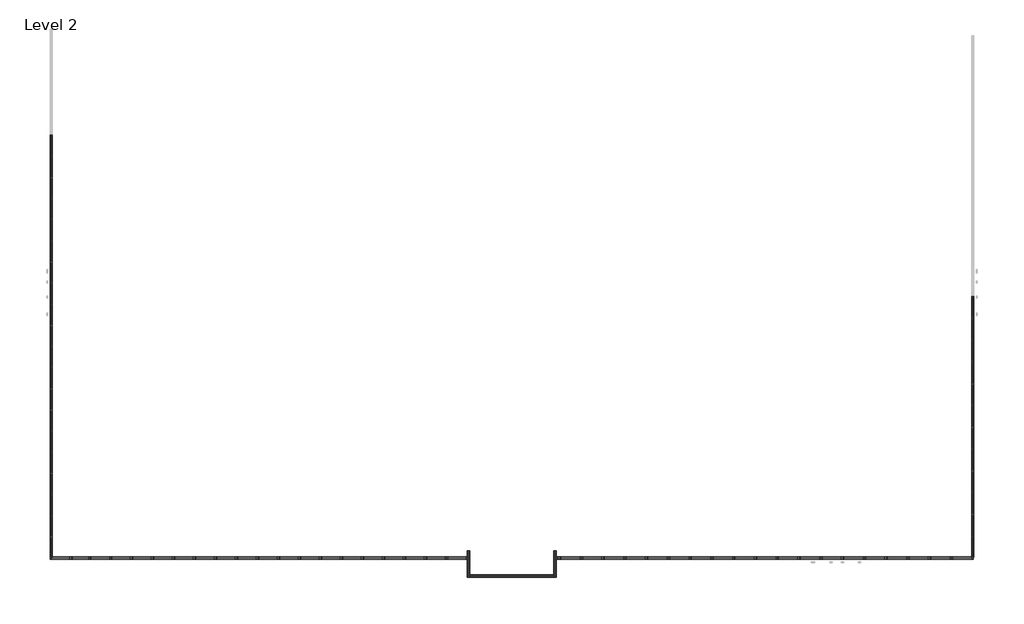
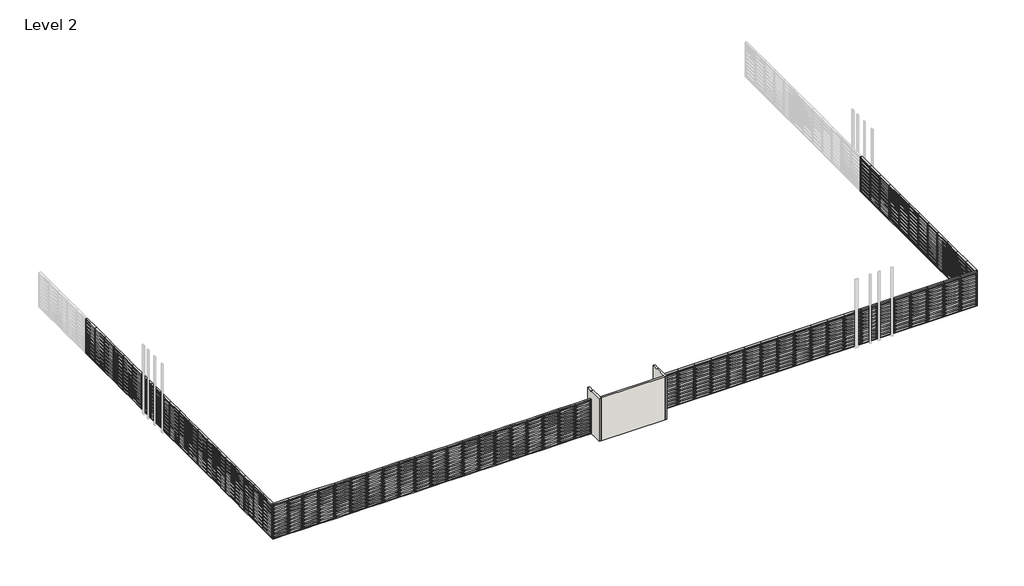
# One storey, part 1 of 2: 72 plates, 3 walls.
"""IFC4 building model written with IfcOpenShell, lengths in millimetres."""

from ifc_helpers import new_model, si_unit, frame, origin, place, context, project, spatial, polyline, outline, extrude, faceted_brep, transform, mapped, element, save
from components import curtain_wall_panel_louver_20805_curtain_wall_panel_louver_1ae15b3a, curtain_wall_panel_louver_20805_curtain_wall_panel_louver_34a23a9e, curtain_wall_panel_louver_20805_curtain_wall_panel_louver_166f2102, curtain_wall_panel_louver_20805_curtain_wall_panel_louver_68f3dc09, curtain_wall_panel_louver_20805_curtain_wall_panel_louver_29182894, curtain_wall_panel_louver_20805_curtain_wall_panel_louver_0f9f9e0f

model = new_model("IFC4")

# Units and contexts
model_context = context("Model", 3, world=origin())
ifc_project = project(units=[si_unit("LENGTHUNIT", "METRE", prefix="MILLI")], contexts=[model_context])

# Site, building, storey
site = spatial("IfcSite", under=ifc_project)
building = spatial("IfcBuilding", under=site)
storey = spatial("IfcBuildingStorey", under=building, Name="Level 2", Elevation=6800.0)

# Plates
placement = place(None, origin())
curtain_wall_panel_louver_20805_curtain_wall_panel_louver_shape = curtain_wall_panel_louver_20805_curtain_wall_panel_louver_1ae15b3a(model_context)
element("IfcPlate", 1, ObjectType="Curtain_wall_panel_-_Louver_20805 : Curtain_wall_panel_-_Louver_20805", at=placement, inside=storey, context=model_context, shape_type="MappedRepresentation", body=[
    mapped(curtain_wall_panel_louver_20805_curtain_wall_panel_louver_shape, transform((-13373.0205063, -36205.9199596, 5800.0), x_axis=(-1.0, 0.0, 0.0), y_axis=(0.0, -1.0, 0.0), z_axis=(0.0, 0.0, 1.0))),
])
element("IfcPlate", 2, ObjectType="Curtain_wall_panel_-_Louver_20805 : Curtain_wall_panel_-_Louver_20805", at=placement, inside=storey, context=model_context, shape_type="MappedRepresentation", body=[
    mapped(curtain_wall_panel_louver_20805_curtain_wall_panel_louver_shape, transform((-15203.0205065, -36205.9199596, 5800.0), x_axis=(-1.0, 0.0, 0.0), y_axis=(0.0, -1.0, 0.0), z_axis=(0.0, 0.0, 1.0))),
])
element("IfcPlate", 3, ObjectType="Curtain_wall_panel_-_Louver_20805 : Curtain_wall_panel_-_Louver_20805", at=placement, inside=storey, context=model_context, shape_type="MappedRepresentation", body=[
    mapped(curtain_wall_panel_louver_20805_curtain_wall_panel_louver_shape, transform((-17033.0205065, -36205.9199596, 5800.0), x_axis=(-1.0, 0.0, 0.0), y_axis=(0.0, -1.0, 0.0), z_axis=(0.0, 0.0, 1.0))),
])
element("IfcPlate", 4, ObjectType="Curtain_wall_panel_-_Louver_20805 : Curtain_wall_panel_-_Louver_20805", at=placement, inside=storey, context=model_context, shape_type="MappedRepresentation", body=[
    mapped(curtain_wall_panel_louver_20805_curtain_wall_panel_louver_shape, transform((-18863.0205065, -36205.9199596, 5800.0), x_axis=(-1.0, 0.0, 0.0), y_axis=(0.0, -1.0, 0.0), z_axis=(0.0, 0.0, 1.0))),
])
element("IfcPlate", 5, ObjectType="Curtain_wall_panel_-_Louver_20805 : Curtain_wall_panel_-_Louver_20805", at=placement, inside=storey, context=model_context, shape_type="MappedRepresentation", body=[
    mapped(curtain_wall_panel_louver_20805_curtain_wall_panel_louver_shape, transform((-20693.0205065, -36205.9199596, 5800.0), x_axis=(-1.0, 0.0, 0.0), y_axis=(0.0, -1.0, 0.0), z_axis=(0.0, 0.0, 1.0))),
])
element("IfcPlate", 6, ObjectType="Curtain_wall_panel_-_Louver_20805 : Curtain_wall_panel_-_Louver_20805", at=placement, inside=storey, context=model_context, shape_type="MappedRepresentation", body=[
    mapped(curtain_wall_panel_louver_20805_curtain_wall_panel_louver_shape, transform((-22523.0205065, -36205.9199596, 5800.0), x_axis=(-1.0, 0.0, 0.0), y_axis=(0.0, -1.0, 0.0), z_axis=(0.0, 0.0, 1.0))),
])
element("IfcPlate", 7, ObjectType="Curtain_wall_panel_-_Louver_20805 : Curtain_wall_panel_-_Louver_20805", at=placement, inside=storey, context=model_context, shape_type="MappedRepresentation", body=[
    mapped(curtain_wall_panel_louver_20805_curtain_wall_panel_louver_shape, transform((-24353.0205065, -36205.9199596, 5800.0), x_axis=(-1.0, 0.0, 0.0), y_axis=(0.0, -1.0, 0.0), z_axis=(0.0, 0.0, 1.0))),
])
element("IfcPlate", 8, ObjectType="Curtain_wall_panel_-_Louver_20805 : Curtain_wall_panel_-_Louver_20805", at=placement, inside=storey, context=model_context, shape_type="MappedRepresentation", body=[
    mapped(curtain_wall_panel_louver_20805_curtain_wall_panel_louver_shape, transform((-26183.0205065, -36205.9199596, 5800.0), x_axis=(-1.0, 0.0, 0.0), y_axis=(0.0, -1.0, 0.0), z_axis=(0.0, 0.0, 1.0))),
])
element("IfcPlate", 9, ObjectType="Curtain_wall_panel_-_Louver_20805 : Curtain_wall_panel_-_Louver_20805", at=placement, inside=storey, context=model_context, shape_type="MappedRepresentation", body=[
    mapped(curtain_wall_panel_louver_20805_curtain_wall_panel_louver_shape, transform((-28013.0205065, -36205.9199596, 5800.0), x_axis=(-1.0, 0.0, 0.0), y_axis=(0.0, -1.0, 0.0), z_axis=(0.0, 0.0, 1.0))),
])
element("IfcPlate", 10, ObjectType="Curtain_wall_panel_-_Louver_20805 : Curtain_wall_panel_-_Louver_20805", at=placement, inside=storey, context=model_context, shape_type="MappedRepresentation", body=[
    mapped(curtain_wall_panel_louver_20805_curtain_wall_panel_louver_shape, transform((-29843.0205065, -36205.9199596, 5800.0), x_axis=(-1.0, 0.0, 0.0), y_axis=(0.0, -1.0, 0.0), z_axis=(0.0, 0.0, 1.0))),
])
element("IfcPlate", 11, ObjectType="Curtain_wall_panel_-_Louver_20805 : Curtain_wall_panel_-_Louver_20805", at=placement, inside=storey, context=model_context, shape_type="MappedRepresentation", body=[
    mapped(curtain_wall_panel_louver_20805_curtain_wall_panel_louver_shape, transform((-31673.0205065, -36205.9199596, 5800.0), x_axis=(-1.0, 0.0, 0.0), y_axis=(0.0, -1.0, 0.0), z_axis=(0.0, 0.0, 1.0))),
])
element("IfcPlate", 12, ObjectType="Curtain_wall_panel_-_Louver_20805 : Curtain_wall_panel_-_Louver_20805", at=placement, inside=storey, context=model_context, shape_type="MappedRepresentation", body=[
    mapped(curtain_wall_panel_louver_20805_curtain_wall_panel_louver_shape, transform((-33503.0205065, -36205.9199596, 5800.0), x_axis=(-1.0, 0.0, 0.0), y_axis=(0.0, -1.0, 0.0), z_axis=(0.0, 0.0, 1.0))),
])
element("IfcPlate", 13, ObjectType="Curtain_wall_panel_-_Louver_20805 : Curtain_wall_panel_-_Louver_20805", at=placement, inside=storey, context=model_context, shape_type="MappedRepresentation", body=[
    mapped(curtain_wall_panel_louver_20805_curtain_wall_panel_louver_shape, transform((-35333.0205065, -36205.9199596, 5800.0), x_axis=(-1.0, 0.0, 0.0), y_axis=(0.0, -1.0, 0.0), z_axis=(0.0, 0.0, 1.0))),
])
element("IfcPlate", 14, ObjectType="Curtain_wall_panel_-_Louver_20805 : Curtain_wall_panel_-_Louver_20805", at=placement, inside=storey, context=model_context, shape_type="MappedRepresentation", body=[
    mapped(curtain_wall_panel_louver_20805_curtain_wall_panel_louver_shape, transform((-37163.0205065, -36205.9199596, 5800.0), x_axis=(-1.0, 0.0, 0.0), y_axis=(0.0, -1.0, 0.0), z_axis=(0.0, 0.0, 1.0))),
])
element("IfcPlate", 15, ObjectType="Curtain_wall_panel_-_Louver_20805 : Curtain_wall_panel_-_Louver_20805", at=placement, inside=storey, context=model_context, shape_type="MappedRepresentation", body=[
    mapped(curtain_wall_panel_louver_20805_curtain_wall_panel_louver_shape, transform((-38993.0205065, -36205.9199596, 5800.0), x_axis=(-1.0, 0.0, 0.0), y_axis=(0.0, -1.0, 0.0), z_axis=(0.0, 0.0, 1.0))),
])
element("IfcPlate", 16, ObjectType="Curtain_wall_panel_-_Louver_20805 : Curtain_wall_panel_-_Louver_20805", at=placement, inside=storey, context=model_context, shape_type="MappedRepresentation", body=[
    mapped(curtain_wall_panel_louver_20805_curtain_wall_panel_louver_shape, transform((-40823.0205065, -36205.9199596, 5800.0), x_axis=(-1.0, 0.0, 0.0), y_axis=(0.0, -1.0, 0.0), z_axis=(0.0, 0.0, 1.0))),
])
element("IfcPlate", 17, ObjectType="Curtain_wall_panel_-_Louver_20805 : Curtain_wall_panel_-_Louver_20805", at=placement, inside=storey, context=model_context, shape_type="MappedRepresentation", body=[
    mapped(curtain_wall_panel_louver_20805_curtain_wall_panel_louver_shape, transform((-42653.0205065, -36205.9199596, 5800.0), x_axis=(-1.0, 0.0, 0.0), y_axis=(0.0, -1.0, 0.0), z_axis=(0.0, 0.0, 1.0))),
])
element("IfcPlate", 18, ObjectType="Curtain_wall_panel_-_Louver_20805 : Curtain_wall_panel_-_Louver_20805", at=placement, inside=storey, context=model_context, shape_type="MappedRepresentation", body=[
    mapped(curtain_wall_panel_louver_20805_curtain_wall_panel_louver_shape, transform((-44483.0205065, -36205.9199596, 5800.0), x_axis=(-1.0, 0.0, 0.0), y_axis=(0.0, -1.0, 0.0), z_axis=(0.0, 0.0, 1.0))),
])
element("IfcPlate", 19, ObjectType="Curtain_wall_panel_-_Louver_20805 : Curtain_wall_panel_-_Louver_20805", at=placement, inside=storey, context=model_context, shape_type="MappedRepresentation", body=[
    mapped(curtain_wall_panel_louver_20805_curtain_wall_panel_louver_shape, transform((-46313.0205065, -36205.9199596, 5800.0), x_axis=(-1.0, 0.0, 0.0), y_axis=(0.0, -1.0, 0.0), z_axis=(0.0, 0.0, 1.0))),
])
curtain_wall_panel_louver_20805_curtain_wall_panel_louver_2_shape = curtain_wall_panel_louver_20805_curtain_wall_panel_louver_34a23a9e(model_context)
element("IfcPlate", 20, ObjectType="Curtain_wall_panel_-_Louver_20805 : Curtain_wall_panel_-_Louver_20805", at=placement, inside=storey, context=model_context, shape_type="MappedRepresentation", body=[
    mapped(curtain_wall_panel_louver_20805_curtain_wall_panel_louver_2_shape, transform((-12400.7705062, -35133.6699595, 5800.0), x_axis=(0.0, 1.0, 0.0), y_axis=(-1.0, 0.0, 0.0), z_axis=(0.0, 0.0, 1.0))),
])
element("IfcPlate", 21, ObjectType="Curtain_wall_panel_-_Louver_20805 : Curtain_wall_panel_-_Louver_20805", at=placement, inside=storey, context=model_context, shape_type="MappedRepresentation", body=[
    mapped(curtain_wall_panel_louver_20805_curtain_wall_panel_louver_2_shape, transform((-12400.7705062, -33303.6699593, 5800.0), x_axis=(0.0, 1.0, 0.0), y_axis=(-1.0, 0.0, 0.0), z_axis=(0.0, 0.0, 1.0))),
])
element("IfcPlate", 22, ObjectType="Curtain_wall_panel_-_Louver_20805 : Curtain_wall_panel_-_Louver_20805", at=placement, inside=storey, context=model_context, shape_type="MappedRepresentation", body=[
    mapped(curtain_wall_panel_louver_20805_curtain_wall_panel_louver_2_shape, transform((-12400.7705062, -31473.6699593, 5800.0), x_axis=(0.0, 1.0, 0.0), y_axis=(-1.0, 0.0, 0.0), z_axis=(0.0, 0.0, 1.0))),
])
element("IfcPlate", 23, ObjectType="Curtain_wall_panel_-_Louver_20805 : Curtain_wall_panel_-_Louver_20805", at=placement, inside=storey, context=model_context, shape_type="MappedRepresentation", body=[
    mapped(curtain_wall_panel_louver_20805_curtain_wall_panel_louver_2_shape, transform((-12400.7705062, -29643.6699593, 5800.0), x_axis=(0.0, 1.0, 0.0), y_axis=(-1.0, 0.0, 0.0), z_axis=(0.0, 0.0, 1.0))),
])
element("IfcPlate", 24, ObjectType="Curtain_wall_panel_-_Louver_20805 : Curtain_wall_panel_-_Louver_20805", at=placement, inside=storey, context=model_context, shape_type="MappedRepresentation", body=[
    mapped(curtain_wall_panel_louver_20805_curtain_wall_panel_louver_2_shape, transform((-12400.7705062, -27813.6699593, 5800.0), x_axis=(0.0, 1.0, 0.0), y_axis=(-1.0, 0.0, 0.0), z_axis=(0.0, 0.0, 1.0))),
])
element("IfcPlate", 25, ObjectType="Curtain_wall_panel_-_Louver_20805 : Curtain_wall_panel_-_Louver_20805", at=placement, inside=storey, context=model_context, shape_type="MappedRepresentation", body=[
    mapped(curtain_wall_panel_louver_20805_curtain_wall_panel_louver_2_shape, transform((-12400.7705062, -25983.6699593, 5800.0), x_axis=(0.0, 1.0, 0.0), y_axis=(-1.0, 0.0, 0.0), z_axis=(0.0, 0.0, 1.0))),
])
element("IfcPlate", 26, ObjectType="Curtain_wall_panel_-_Louver_20805 : Curtain_wall_panel_-_Louver_20805", at=placement, inside=storey, context=model_context, shape_type="MappedRepresentation", body=[
    mapped(curtain_wall_panel_louver_20805_curtain_wall_panel_louver_2_shape, transform((-12400.7705062, -24153.6699593, 5800.0), x_axis=(0.0, 1.0, 0.0), y_axis=(-1.0, 0.0, 0.0), z_axis=(0.0, 0.0, 1.0))),
])
element("IfcPlate", 27, ObjectType="Curtain_wall_panel_-_Louver_20805 : Curtain_wall_panel_-_Louver_20805", at=placement, inside=storey, context=model_context, shape_type="MappedRepresentation", body=[
    mapped(curtain_wall_panel_louver_20805_curtain_wall_panel_louver_2_shape, transform((-12400.7705062, -22323.6699593, 5800.0), x_axis=(0.0, 1.0, 0.0), y_axis=(-1.0, 0.0, 0.0), z_axis=(0.0, 0.0, 1.0))),
])
element("IfcPlate", 28, ObjectType="Curtain_wall_panel_-_Louver_20805 : Curtain_wall_panel_-_Louver_20805", at=placement, inside=storey, context=model_context, shape_type="MappedRepresentation", body=[
    mapped(curtain_wall_panel_louver_20805_curtain_wall_panel_louver_2_shape, transform((-12400.7705062, -20493.6699593, 5800.0), x_axis=(0.0, 1.0, 0.0), y_axis=(-1.0, 0.0, 0.0), z_axis=(0.0, 0.0, 1.0))),
])
element("IfcPlate", 29, ObjectType="Curtain_wall_panel_-_Louver_20805 : Curtain_wall_panel_-_Louver_20805", at=placement, inside=storey, context=model_context, shape_type="MappedRepresentation", body=[
    mapped(curtain_wall_panel_louver_20805_curtain_wall_panel_louver_2_shape, transform((-12400.7705062, -18663.6699593, 5800.0), x_axis=(0.0, 1.0, 0.0), y_axis=(-1.0, 0.0, 0.0), z_axis=(0.0, 0.0, 1.0))),
])
element("IfcPlate", 30, ObjectType="Curtain_wall_panel_-_Louver_20805 : Curtain_wall_panel_-_Louver_20805", at=placement, inside=storey, context=model_context, shape_type="MappedRepresentation", body=[
    mapped(curtain_wall_panel_louver_20805_curtain_wall_panel_louver_2_shape, transform((-12400.7705062, -16833.6699593, 5800.0), x_axis=(0.0, 1.0, 0.0), y_axis=(-1.0, 0.0, 0.0), z_axis=(0.0, 0.0, 1.0))),
])
element("IfcPlate", 31, ObjectType="Curtain_wall_panel_-_Louver_20805 : Curtain_wall_panel_-_Louver_20805", at=placement, inside=storey, context=model_context, shape_type="MappedRepresentation", body=[
    mapped(curtain_wall_panel_louver_20805_curtain_wall_panel_louver_2_shape, transform((-12400.7705062, -15003.6699593, 5800.0), x_axis=(0.0, 1.0, 0.0), y_axis=(-1.0, 0.0, 0.0), z_axis=(0.0, 0.0, 1.0))),
])
curtain_wall_panel_louver_20805_curtain_wall_panel_louver_3_shape = curtain_wall_panel_louver_20805_curtain_wall_panel_louver_166f2102(model_context)
element("IfcPlate", 32, ObjectType="Curtain_wall_panel_-_Louver_20805 : Curtain_wall_panel_-_Louver_20805", at=placement, inside=storey, context=model_context, shape_type="MappedRepresentation", body=[
    mapped(curtain_wall_panel_louver_20805_curtain_wall_panel_louver_3_shape, transform((-55855.2253047, -36205.9199596, 5800.0), x_axis=(-1.0, 0.0, 0.0), y_axis=(0.0, -1.0, 0.0), z_axis=(0.0, 0.0, 1.0))),
])
element("IfcPlate", 33, ObjectType="Curtain_wall_panel_-_Louver_20805 : Curtain_wall_panel_-_Louver_20805", at=placement, inside=storey, context=model_context, shape_type="MappedRepresentation", body=[
    mapped(curtain_wall_panel_louver_20805_curtain_wall_panel_louver_3_shape, transform((-57619.5645631, -36205.9199596, 5800.0), x_axis=(-1.0, 0.0, 0.0), y_axis=(0.0, -1.0, 0.0), z_axis=(0.0, 0.0, 1.0))),
])
element("IfcPlate", 34, ObjectType="Curtain_wall_panel_-_Louver_20805 : Curtain_wall_panel_-_Louver_20805", at=placement, inside=storey, context=model_context, shape_type="MappedRepresentation", body=[
    mapped(curtain_wall_panel_louver_20805_curtain_wall_panel_louver_3_shape, transform((-59383.9038216, -36205.9199596, 5800.0), x_axis=(-1.0, 0.0, 0.0), y_axis=(0.0, -1.0, 0.0), z_axis=(0.0, 0.0, 1.0))),
])
element("IfcPlate", 35, ObjectType="Curtain_wall_panel_-_Louver_20805 : Curtain_wall_panel_-_Louver_20805", at=placement, inside=storey, context=model_context, shape_type="MappedRepresentation", body=[
    mapped(curtain_wall_panel_louver_20805_curtain_wall_panel_louver_3_shape, transform((-61148.2430801, -36205.9199596, 5800.0), x_axis=(-1.0, 0.0, 0.0), y_axis=(0.0, -1.0, 0.0), z_axis=(0.0, 0.0, 1.0))),
])
element("IfcPlate", 36, ObjectType="Curtain_wall_panel_-_Louver_20805 : Curtain_wall_panel_-_Louver_20805", at=placement, inside=storey, context=model_context, shape_type="MappedRepresentation", body=[
    mapped(curtain_wall_panel_louver_20805_curtain_wall_panel_louver_3_shape, transform((-62912.5823385, -36205.9199596, 5800.0), x_axis=(-1.0, 0.0, 0.0), y_axis=(0.0, -1.0, 0.0), z_axis=(0.0, 0.0, 1.0))),
])
element("IfcPlate", 37, ObjectType="Curtain_wall_panel_-_Louver_20805 : Curtain_wall_panel_-_Louver_20805", at=placement, inside=storey, context=model_context, shape_type="MappedRepresentation", body=[
    mapped(curtain_wall_panel_louver_20805_curtain_wall_panel_louver_3_shape, transform((-64676.921597, -36205.9199596, 5800.0), x_axis=(-1.0, 0.0, 0.0), y_axis=(0.0, -1.0, 0.0), z_axis=(0.0, 0.0, 1.0))),
])
element("IfcPlate", 38, ObjectType="Curtain_wall_panel_-_Louver_20805 : Curtain_wall_panel_-_Louver_20805", at=placement, inside=storey, context=model_context, shape_type="MappedRepresentation", body=[
    mapped(curtain_wall_panel_louver_20805_curtain_wall_panel_louver_3_shape, transform((-66441.2608555, -36205.9199596, 5800.0), x_axis=(-1.0, 0.0, 0.0), y_axis=(0.0, -1.0, 0.0), z_axis=(0.0, 0.0, 1.0))),
])
element("IfcPlate", 39, ObjectType="Curtain_wall_panel_-_Louver_20805 : Curtain_wall_panel_-_Louver_20805", at=placement, inside=storey, context=model_context, shape_type="MappedRepresentation", body=[
    mapped(curtain_wall_panel_louver_20805_curtain_wall_panel_louver_3_shape, transform((-68205.6001139, -36205.9199596, 5800.0), x_axis=(-1.0, 0.0, 0.0), y_axis=(0.0, -1.0, 0.0), z_axis=(0.0, 0.0, 1.0))),
])
element("IfcPlate", 40, ObjectType="Curtain_wall_panel_-_Louver_20805 : Curtain_wall_panel_-_Louver_20805", at=placement, inside=storey, context=model_context, shape_type="MappedRepresentation", body=[
    mapped(curtain_wall_panel_louver_20805_curtain_wall_panel_louver_3_shape, transform((-69969.9393724, -36205.9199596, 5800.0), x_axis=(-1.0, 0.0, 0.0), y_axis=(0.0, -1.0, 0.0), z_axis=(0.0, 0.0, 1.0))),
])
element("IfcPlate", 41, ObjectType="Curtain_wall_panel_-_Louver_20805 : Curtain_wall_panel_-_Louver_20805", at=placement, inside=storey, context=model_context, shape_type="MappedRepresentation", body=[
    mapped(curtain_wall_panel_louver_20805_curtain_wall_panel_louver_3_shape, transform((-71734.2786309, -36205.9199596, 5800.0), x_axis=(-1.0, 0.0, 0.0), y_axis=(0.0, -1.0, 0.0), z_axis=(0.0, 0.0, 1.0))),
])
element("IfcPlate", 42, ObjectType="Curtain_wall_panel_-_Louver_20805 : Curtain_wall_panel_-_Louver_20805", at=placement, inside=storey, context=model_context, shape_type="MappedRepresentation", body=[
    mapped(curtain_wall_panel_louver_20805_curtain_wall_panel_louver_3_shape, transform((-73498.6178893, -36205.9199596, 5800.0), x_axis=(-1.0, 0.0, 0.0), y_axis=(0.0, -1.0, 0.0), z_axis=(0.0, 0.0, 1.0))),
])
element("IfcPlate", 43, ObjectType="Curtain_wall_panel_-_Louver_20805 : Curtain_wall_panel_-_Louver_20805", at=placement, inside=storey, context=model_context, shape_type="MappedRepresentation", body=[
    mapped(curtain_wall_panel_louver_20805_curtain_wall_panel_louver_3_shape, transform((-75262.9571478, -36205.9199596, 5800.0), x_axis=(-1.0, 0.0, 0.0), y_axis=(0.0, -1.0, 0.0), z_axis=(0.0, 0.0, 1.0))),
])
element("IfcPlate", 44, ObjectType="Curtain_wall_panel_-_Louver_20805 : Curtain_wall_panel_-_Louver_20805", at=placement, inside=storey, context=model_context, shape_type="MappedRepresentation", body=[
    mapped(curtain_wall_panel_louver_20805_curtain_wall_panel_louver_3_shape, transform((-77027.2964063, -36205.9199596, 5800.0), x_axis=(-1.0, 0.0, 0.0), y_axis=(0.0, -1.0, 0.0), z_axis=(0.0, 0.0, 1.0))),
])
element("IfcPlate", 45, ObjectType="Curtain_wall_panel_-_Louver_20805 : Curtain_wall_panel_-_Louver_20805", at=placement, inside=storey, context=model_context, shape_type="MappedRepresentation", body=[
    mapped(curtain_wall_panel_louver_20805_curtain_wall_panel_louver_3_shape, transform((-78791.6356647, -36205.9199596, 5800.0), x_axis=(-1.0, 0.0, 0.0), y_axis=(0.0, -1.0, 0.0), z_axis=(0.0, 0.0, 1.0))),
])
element("IfcPlate", 46, ObjectType="Curtain_wall_panel_-_Louver_20805 : Curtain_wall_panel_-_Louver_20805", at=placement, inside=storey, context=model_context, shape_type="MappedRepresentation", body=[
    mapped(curtain_wall_panel_louver_20805_curtain_wall_panel_louver_3_shape, transform((-80555.9749232, -36205.9199596, 5800.0), x_axis=(-1.0, 0.0, 0.0), y_axis=(0.0, -1.0, 0.0), z_axis=(0.0, 0.0, 1.0))),
])
element("IfcPlate", 47, ObjectType="Curtain_wall_panel_-_Louver_20805 : Curtain_wall_panel_-_Louver_20805", at=placement, inside=storey, context=model_context, shape_type="MappedRepresentation", body=[
    mapped(curtain_wall_panel_louver_20805_curtain_wall_panel_louver_3_shape, transform((-82320.3141816, -36205.9199596, 5800.0), x_axis=(-1.0, 0.0, 0.0), y_axis=(0.0, -1.0, 0.0), z_axis=(0.0, 0.0, 1.0))),
])
element("IfcPlate", 48, ObjectType="Curtain_wall_panel_-_Louver_20805 : Curtain_wall_panel_-_Louver_20805", at=placement, inside=storey, context=model_context, shape_type="MappedRepresentation", body=[
    mapped(curtain_wall_panel_louver_20805_curtain_wall_panel_louver_3_shape, transform((-84084.6534401, -36205.9199596, 5800.0), x_axis=(-1.0, 0.0, 0.0), y_axis=(0.0, -1.0, 0.0), z_axis=(0.0, 0.0, 1.0))),
])
element("IfcPlate", 49, ObjectType="Curtain_wall_panel_-_Louver_20805 : Curtain_wall_panel_-_Louver_20805", at=placement, inside=storey, context=model_context, shape_type="MappedRepresentation", body=[
    mapped(curtain_wall_panel_louver_20805_curtain_wall_panel_louver_3_shape, transform((-85848.9926986, -36205.9199596, 5800.0), x_axis=(-1.0, 0.0, 0.0), y_axis=(0.0, -1.0, 0.0), z_axis=(0.0, 0.0, 1.0))),
])
element("IfcPlate", 50, ObjectType="Curtain_wall_panel_-_Louver_20805 : Curtain_wall_panel_-_Louver_20805", at=placement, inside=storey, context=model_context, shape_type="MappedRepresentation", body=[
    mapped(curtain_wall_panel_louver_20805_curtain_wall_panel_louver_3_shape, transform((-89177.6712155, -36205.9199596, 5800.0), x_axis=(-1.0, 0.0, 0.0), y_axis=(0.0, -1.0, 0.0), z_axis=(0.0, 0.0, 1.0))),
])
curtain_wall_panel_louver_20805_curtain_wall_panel_louver_4_shape = curtain_wall_panel_louver_20805_curtain_wall_panel_louver_68f3dc09(model_context)
element("IfcPlate", 51, ObjectType="Curtain_wall_panel_-_Louver_20805 : Curtain_wall_panel_-_Louver_20805", at=placement, inside=storey, context=model_context, shape_type="MappedRepresentation", body=[
    mapped(curtain_wall_panel_louver_20805_curtain_wall_panel_louver_4_shape, transform((-90059.8408447, -35159.8149596, 5800.0), x_axis=(0.0, 1.0, 0.0), y_axis=(-1.0, 0.0, 0.0), z_axis=(0.0, 0.0, 1.0))),
])
element("IfcPlate", 52, ObjectType="Curtain_wall_panel_-_Louver_20805 : Curtain_wall_panel_-_Louver_20805", at=placement, inside=storey, context=model_context, shape_type="MappedRepresentation", body=[
    mapped(curtain_wall_panel_louver_20805_curtain_wall_panel_louver_4_shape, transform((-90059.8408447, -33382.1049596, 5800.0), x_axis=(0.0, 1.0, 0.0), y_axis=(-1.0, 0.0, 0.0), z_axis=(0.0, 0.0, 1.0))),
])
element("IfcPlate", 53, ObjectType="Curtain_wall_panel_-_Louver_20805 : Curtain_wall_panel_-_Louver_20805", at=placement, inside=storey, context=model_context, shape_type="MappedRepresentation", body=[
    mapped(curtain_wall_panel_louver_20805_curtain_wall_panel_louver_4_shape, transform((-90059.8408447, -31604.3949596, 5800.0), x_axis=(0.0, 1.0, 0.0), y_axis=(-1.0, 0.0, 0.0), z_axis=(0.0, 0.0, 1.0))),
])
element("IfcPlate", 54, ObjectType="Curtain_wall_panel_-_Louver_20805 : Curtain_wall_panel_-_Louver_20805", at=placement, inside=storey, context=model_context, shape_type="MappedRepresentation", body=[
    mapped(curtain_wall_panel_louver_20805_curtain_wall_panel_louver_4_shape, transform((-90059.8408447, -29826.6849596, 5800.0), x_axis=(0.0, 1.0, 0.0), y_axis=(-1.0, 0.0, 0.0), z_axis=(0.0, 0.0, 1.0))),
])
element("IfcPlate", 55, ObjectType="Curtain_wall_panel_-_Louver_20805 : Curtain_wall_panel_-_Louver_20805", at=placement, inside=storey, context=model_context, shape_type="MappedRepresentation", body=[
    mapped(curtain_wall_panel_louver_20805_curtain_wall_panel_louver_4_shape, transform((-90059.8408447, -28048.9749596, 5800.0), x_axis=(0.0, 1.0, 0.0), y_axis=(-1.0, 0.0, 0.0), z_axis=(0.0, 0.0, 1.0))),
])
element("IfcPlate", 56, ObjectType="Curtain_wall_panel_-_Louver_20805 : Curtain_wall_panel_-_Louver_20805", at=placement, inside=storey, context=model_context, shape_type="MappedRepresentation", body=[
    mapped(curtain_wall_panel_louver_20805_curtain_wall_panel_louver_4_shape, transform((-90059.8408447, -26271.2649596, 5800.0), x_axis=(0.0, 1.0, 0.0), y_axis=(-1.0, 0.0, 0.0), z_axis=(0.0, 0.0, 1.0))),
])
element("IfcPlate", 57, ObjectType="Curtain_wall_panel_-_Louver_20805 : Curtain_wall_panel_-_Louver_20805", at=placement, inside=storey, context=model_context, shape_type="MappedRepresentation", body=[
    mapped(curtain_wall_panel_louver_20805_curtain_wall_panel_louver_4_shape, transform((-90059.8408447, -24493.5549596, 5800.0), x_axis=(0.0, 1.0, 0.0), y_axis=(-1.0, 0.0, 0.0), z_axis=(0.0, 0.0, 1.0))),
])
element("IfcPlate", 58, ObjectType="Curtain_wall_panel_-_Louver_20805 : Curtain_wall_panel_-_Louver_20805", at=placement, inside=storey, context=model_context, shape_type="MappedRepresentation", body=[
    mapped(curtain_wall_panel_louver_20805_curtain_wall_panel_louver_4_shape, transform((-90059.8408447, -22715.8449596, 5800.0), x_axis=(0.0, 1.0, 0.0), y_axis=(-1.0, 0.0, 0.0), z_axis=(0.0, 0.0, 1.0))),
])
element("IfcPlate", 59, ObjectType="Curtain_wall_panel_-_Louver_20805 : Curtain_wall_panel_-_Louver_20805", at=placement, inside=storey, context=model_context, shape_type="MappedRepresentation", body=[
    mapped(curtain_wall_panel_louver_20805_curtain_wall_panel_louver_4_shape, transform((-90059.8408447, -20938.1349596, 5800.0), x_axis=(0.0, 1.0, 0.0), y_axis=(-1.0, 0.0, 0.0), z_axis=(0.0, 0.0, 1.0))),
])
element("IfcPlate", 60, ObjectType="Curtain_wall_panel_-_Louver_20805 : Curtain_wall_panel_-_Louver_20805", at=placement, inside=storey, context=model_context, shape_type="MappedRepresentation", body=[
    mapped(curtain_wall_panel_louver_20805_curtain_wall_panel_louver_4_shape, transform((-90059.8408447, -19160.4249596, 5800.0), x_axis=(0.0, 1.0, 0.0), y_axis=(-1.0, 0.0, 0.0), z_axis=(0.0, 0.0, 1.0))),
])
element("IfcPlate", 61, ObjectType="Curtain_wall_panel_-_Louver_20805 : Curtain_wall_panel_-_Louver_20805", at=placement, inside=storey, context=model_context, shape_type="MappedRepresentation", body=[
    mapped(curtain_wall_panel_louver_20805_curtain_wall_panel_louver_4_shape, transform((-90059.8408447, -17382.7149596, 5800.0), x_axis=(0.0, 1.0, 0.0), y_axis=(-1.0, 0.0, 0.0), z_axis=(0.0, 0.0, 1.0))),
])
element("IfcPlate", 62, ObjectType="Curtain_wall_panel_-_Louver_20805 : Curtain_wall_panel_-_Louver_20805", at=placement, inside=storey, context=model_context, shape_type="MappedRepresentation", body=[
    mapped(curtain_wall_panel_louver_20805_curtain_wall_panel_louver_4_shape, transform((-90059.8408447, -15605.0049596, 5800.0), x_axis=(0.0, 1.0, 0.0), y_axis=(-1.0, 0.0, 0.0), z_axis=(0.0, 0.0, 1.0))),
])
element("IfcPlate", 63, ObjectType="Curtain_wall_panel_-_Louver_20805 : Curtain_wall_panel_-_Louver_20805", at=placement, inside=storey, context=model_context, shape_type="MappedRepresentation", body=[
    mapped(curtain_wall_panel_louver_20805_curtain_wall_panel_louver_4_shape, transform((-90059.8408447, -13827.2949596, 5800.0), x_axis=(0.0, 1.0, 0.0), y_axis=(-1.0, 0.0, 0.0), z_axis=(0.0, 0.0, 1.0))),
])
element("IfcPlate", 64, ObjectType="Curtain_wall_panel_-_Louver_20805 : Curtain_wall_panel_-_Louver_20805", at=placement, inside=storey, context=model_context, shape_type="MappedRepresentation", body=[
    mapped(curtain_wall_panel_louver_20805_curtain_wall_panel_louver_4_shape, transform((-90059.8408447, -12049.5849596, 5800.0), x_axis=(0.0, 1.0, 0.0), y_axis=(-1.0, 0.0, 0.0), z_axis=(0.0, 0.0, 1.0))),
])
element("IfcPlate", 65, ObjectType="Curtain_wall_panel_-_Louver_20805 : Curtain_wall_panel_-_Louver_20805", at=placement, inside=storey, context=model_context, shape_type="MappedRepresentation", body=[
    mapped(curtain_wall_panel_louver_20805_curtain_wall_panel_louver_4_shape, transform((-90059.8408447, -10271.8749596, 5800.0), x_axis=(0.0, 1.0, 0.0), y_axis=(-1.0, 0.0, 0.0), z_axis=(0.0, 0.0, 1.0))),
])
element("IfcPlate", 66, ObjectType="Curtain_wall_panel_-_Louver_20805 : Curtain_wall_panel_-_Louver_20805", at=placement, inside=storey, context=model_context, shape_type="MappedRepresentation", body=[
    mapped(curtain_wall_panel_louver_20805_curtain_wall_panel_louver_4_shape, transform((-90059.8408447, -8494.1649596, 5800.0), x_axis=(0.0, 1.0, 0.0), y_axis=(-1.0, 0.0, 0.0), z_axis=(0.0, 0.0, 1.0))),
])
element("IfcPlate", 67, ObjectType="Curtain_wall_panel_-_Louver_20805 : Curtain_wall_panel_-_Louver_20805", at=placement, inside=storey, context=model_context, shape_type="MappedRepresentation", body=[
    mapped(curtain_wall_panel_louver_20805_curtain_wall_panel_louver_4_shape, transform((-90059.8408447, -6716.4549596, 5800.0), x_axis=(0.0, 1.0, 0.0), y_axis=(-1.0, 0.0, 0.0), z_axis=(0.0, 0.0, 1.0))),
])
element("IfcPlate", 68, ObjectType="Curtain_wall_panel_-_Louver_20805 : Curtain_wall_panel_-_Louver_20805", at=placement, inside=storey, context=model_context, shape_type="MappedRepresentation", body=[
    mapped(curtain_wall_panel_louver_20805_curtain_wall_panel_louver_4_shape, transform((-90059.8408447, -4938.7449596, 5800.0), x_axis=(0.0, 1.0, 0.0), y_axis=(-1.0, 0.0, 0.0), z_axis=(0.0, 0.0, 1.0))),
])
element("IfcPlate", 69, ObjectType="Curtain_wall_panel_-_Louver_20805 : Curtain_wall_panel_-_Louver_20805", at=placement, inside=storey, context=model_context, shape_type="MappedRepresentation", body=[
    mapped(curtain_wall_panel_louver_20805_curtain_wall_panel_louver_4_shape, transform((-90059.8408447, -3161.0349596, 5800.0), x_axis=(0.0, 1.0, 0.0), y_axis=(-1.0, 0.0, 0.0), z_axis=(0.0, 0.0, 1.0))),
])
element("IfcPlate", 70, ObjectType="Curtain_wall_panel_-_Louver_20805 : Curtain_wall_panel_-_Louver_20805", at=placement, inside=storey, context=model_context, shape_type="MappedRepresentation", body=[
    mapped(curtain_wall_panel_louver_20805_curtain_wall_panel_louver_4_shape, transform((-90059.8408447, -1383.3249596, 5800.0), x_axis=(0.0, 1.0, 0.0), y_axis=(-1.0, 0.0, 0.0), z_axis=(0.0, 0.0, 1.0))),
])
curtain_wall_panel_louver_20805_curtain_wall_panel_louver_5_shape = curtain_wall_panel_louver_20805_curtain_wall_panel_louver_29182894(model_context)
element("IfcPlate", 71, ObjectType="Curtain_wall_panel_-_Louver_20805 : Curtain_wall_panel_-_Louver_20805", at=placement, inside=storey, context=model_context, shape_type="MappedRepresentation", body=[
    mapped(curtain_wall_panel_louver_20805_curtain_wall_panel_louver_5_shape, transform((-87513.331957, -36205.9199596, 5800.0), x_axis=(-1.0, 0.0, 0.0), y_axis=(0.0, -1.0, 0.0), z_axis=(0.0, 0.0, 1.0))),
])
curtain_wall_panel_louver_20805_curtain_wall_panel_louver_6_shape = curtain_wall_panel_louver_20805_curtain_wall_panel_louver_0f9f9e0f(model_context)
element("IfcPlate", 72, ObjectType="Curtain_wall_panel_-_Louver_20805 : Curtain_wall_panel_-_Louver_20805", at=placement, inside=storey, context=model_context, shape_type="MappedRepresentation", body=[
    mapped(curtain_wall_panel_louver_20805_curtain_wall_panel_louver_6_shape, transform((-47379.163091, -36205.9199596, 5800.0), x_axis=(-1.0, 0.0, 0.0), y_axis=(0.0, -1.0, 0.0), z_axis=(0.0, 0.0, 1.0))),
])

# Walls
element("IfcWall", 73, ObjectType="Generic - 200mm", at=placement, inside=storey, context=model_context, shape_type="Brep", body=[
    faceted_brep([(-54973.0556755, -35502.9341607, 5800.0), (-54973.0556755, -37702.9341607, 5800.0), (-54973.0556755, -37702.9341607, 10800.0), (-54973.0556755, -36205.9199596, 10800.0), (-54973.0556755, -36205.9199596, 10700.0), (-54973.0556755, -35502.9341607, 10786.3158026), (-54773.0556755, -35502.9341607, 5800.0), (-54773.0556755, -35502.9341607, 10786.3158026), (-54773.0556755, -36205.9199596, 10700.0), (-54773.0556755, -36205.9199596, 10800.0), (-54773.0556755, -37502.9341607, 10800.0), (-54773.0556755, -37702.9341607, 10800.0), (-54773.0556755, -37702.9341607, 5800.0), (-54773.0556755, -37502.9341607, 5800.0)], [[[0, 1, 2, 3, 4, 5]], [[6, 7, 8, 9, 10, 11, 12, 13]], [[1, 0, 6, 13, 12]], [[0, 5, 7, 6]], [[2, 1, 12, 11]], [[3, 2, 11, 10, 9]], [[3, 9, 8, 4]], [[5, 4, 8, 7]]]),
])
element("IfcWall", 74, ObjectType="Generic - 200mm", at=placement, inside=storey, context=model_context, shape_type="Brep", body=[
    faceted_brep([(-47730.3056755, -35502.9341607, 5800.0), (-47730.3056755, -37502.9341607, 5800.0), (-47730.3056755, -37702.9341607, 5800.0), (-47730.3056755, -37702.9341607, 10800.0), (-47730.3056755, -37502.9341607, 10800.0), (-47730.3056755, -36205.9199596, 10800.0), (-47730.3056755, -36205.9199596, 10700.0), (-47730.3056755, -35502.9341607, 10786.3158026), (-47530.3056755, -35502.9341607, 5800.0), (-47530.3056755, -35502.9341607, 10786.3158026), (-47530.3056755, -36205.9199596, 10700.0), (-47530.3056755, -36205.9199596, 10800.0), (-47530.3056755, -37702.9341607, 10800.0), (-47530.3056755, -37702.9341607, 5800.0)], [[[0, 1, 2, 3, 4, 5, 6, 7]], [[8, 9, 10, 11, 12, 13]], [[2, 1, 0, 8, 13]], [[0, 7, 9, 8]], [[3, 2, 13, 12]], [[5, 4, 3, 12, 11]], [[5, 11, 10, 6]], [[7, 6, 10, 9]]]),
])
element("IfcWall", 75, ObjectType="Generic - 200mm", at=placement, inside=storey, context=model_context, shape_type="SweptSolid", body=[
    extrude(outline(polyline([(-47730.3056755, -37702.9341607), (-54773.0556755, -37702.9341607), (-54773.0556755, -37502.9341607), (-47730.3056755, -37502.9341607), (-47730.3056755, -37702.9341607)])), frame((0.0, 0.0, 5800.0), z_axis=(0.0, 0.0, 1.0), x_axis=(1.0, 0.0, 0.0)), (0.0, 0.0, 1.0), 5000.0),
])

save(model, "model.ifc")
